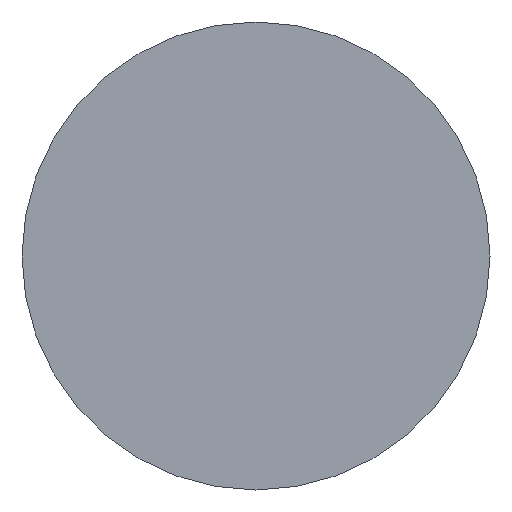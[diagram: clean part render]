
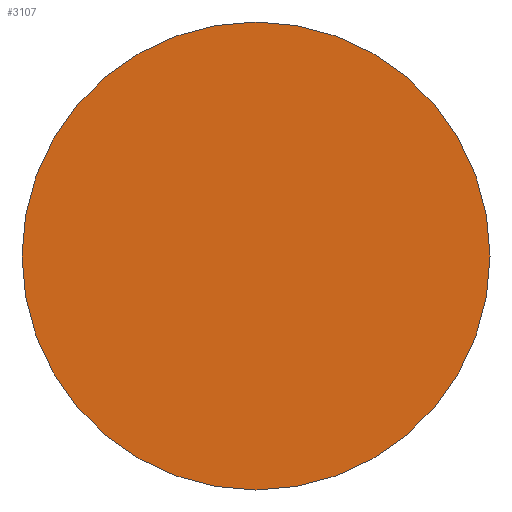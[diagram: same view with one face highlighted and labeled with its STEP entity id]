
A CAD part, front view. The second image highlights one B-rep face of the part: STEP entity #3107.
In plain terms, the highlighted planar face has unit normal (0, -1, 0).
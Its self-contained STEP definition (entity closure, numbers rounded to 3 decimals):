
#140 = VERTEX_POINT ( 'NONE', #999 ) ;
#328 = CIRCLE ( 'NONE', #2497, 34. ) ;
#420 = CARTESIAN_POINT ( 'NONE',  ( 34., -25., 0. ) ) ;
#569 = DIRECTION ( 'NONE',  ( 0., -1., 0. ) ) ;
#999 = CARTESIAN_POINT ( 'NONE',  ( -34., -25., 0. ) ) ;
#1001 = DIRECTION ( 'NONE',  ( 1., 0., 0. ) ) ;
#1120 = DIRECTION ( 'NONE',  ( 1., 0., 0. ) ) ;
#1603 = DIRECTION ( 'NONE',  ( 1., 0., 0. ) ) ;
#1686 = VERTEX_POINT ( 'NONE', #420 ) ;
#1692 = CARTESIAN_POINT ( 'NONE',  ( 0., -25., 0. ) ) ;
#2092 = AXIS2_PLACEMENT_3D ( 'NONE', #3084, #2165, #1603 ) ;
#2165 = DIRECTION ( 'NONE',  ( 0., -1., 0. ) ) ;
#2277 = DIRECTION ( 'NONE',  ( 0., -1., 0. ) ) ;
#2490 = ORIENTED_EDGE ( 'NONE', *, *, #4020, .T. ) ;
#2497 = AXIS2_PLACEMENT_3D ( 'NONE', #1692, #2277, #1001 ) ;
#2770 = PLANE ( 'NONE',  #2883 ) ;
#2879 = EDGE_LOOP ( 'NONE', ( #3225, #2490 ) ) ;
#2883 = AXIS2_PLACEMENT_3D ( 'NONE', #3026, #569, #1120 ) ;
#3026 = CARTESIAN_POINT ( 'NONE',  ( 34., -25., 0. ) ) ;
#3084 = CARTESIAN_POINT ( 'NONE',  ( 0., -25., 0. ) ) ;
#3107 = ADVANCED_FACE ( 'NONE', ( #3652 ), #2770, .T. ) ;
#3137 = CIRCLE ( 'NONE', #2092, 34. ) ;
#3225 = ORIENTED_EDGE ( 'NONE', *, *, #3945, .T. ) ;
#3652 = FACE_OUTER_BOUND ( 'NONE', #2879, .T. ) ;
#3945 = EDGE_CURVE ( 'NONE', #1686, #140, #3137, .T. ) ;
#4020 = EDGE_CURVE ( 'NONE', #140, #1686, #328, .T. ) ;
